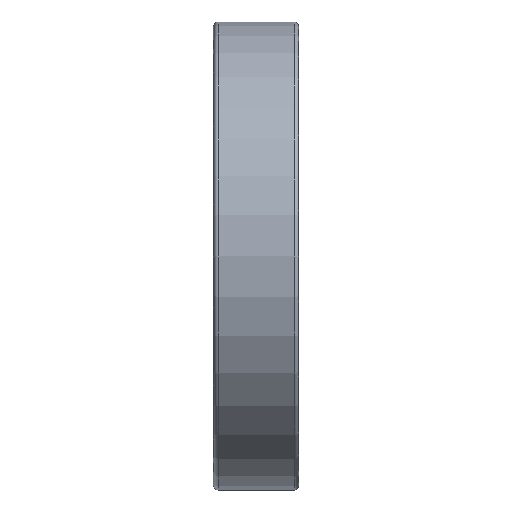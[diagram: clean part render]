
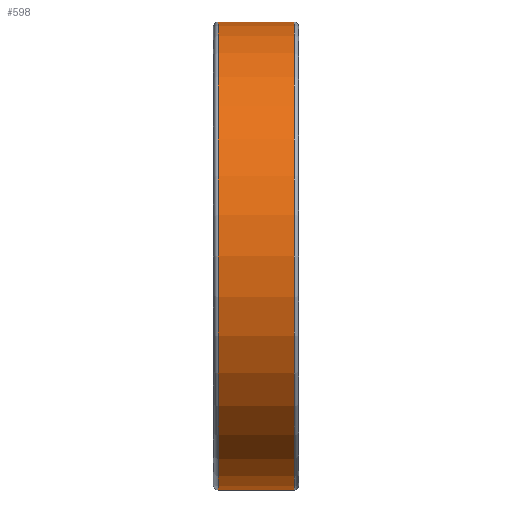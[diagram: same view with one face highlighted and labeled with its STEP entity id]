
A CAD part, front view. The second image highlights one B-rep face of the part: STEP entity #598.
In plain terms, the highlighted cylindrical face has radius 55 mm (diameter 110 mm), a full revolution.
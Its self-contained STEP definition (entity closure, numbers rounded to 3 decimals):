
#176=CYLINDRICAL_SURFACE('',#946,55.);
#288=EDGE_LOOP('',(#412));
#289=EDGE_LOOP('',(#413));
#412=ORIENTED_EDGE('',*,*,#482,.F.);
#413=ORIENTED_EDGE('',*,*,#480,.T.);
#480=EDGE_CURVE('',#867,#867,#500,.T.);
#482=EDGE_CURVE('',#869,#869,#502,.T.);
#500=CIRCLE('',#942,55.);
#502=CIRCLE('',#945,55.);
#598=ADVANCED_FACE('',(#757,#758),#176,.T.);
#757=FACE_BOUND('',#288,.T.);
#758=FACE_BOUND('',#289,.T.);
#867=VERTEX_POINT('',#2010);
#869=VERTEX_POINT('',#2015);
#942=AXIS2_PLACEMENT_3D('',#2009,#1079,#1080);
#945=AXIS2_PLACEMENT_3D('',#2014,#1085,#1086);
#946=AXIS2_PLACEMENT_3D('',#2016,#1087,#1088);
#1079=DIRECTION('',(1.,0.,0.));
#1080=DIRECTION('',(0.,0.,-1.));
#1085=DIRECTION('',(1.,0.,0.));
#1086=DIRECTION('',(0.,0.,-1.));
#1087=DIRECTION('',(1.,0.,0.));
#1088=DIRECTION('',(0.,0.,-1.));
#2009=CARTESIAN_POINT('',(-8.9,0.,0.));
#2010=CARTESIAN_POINT('',(-8.9,0.,-55.));
#2014=CARTESIAN_POINT('',(9.,0.,0.));
#2015=CARTESIAN_POINT('',(9.,0.,-55.));
#2016=CARTESIAN_POINT('',(-8.9,0.,0.));
